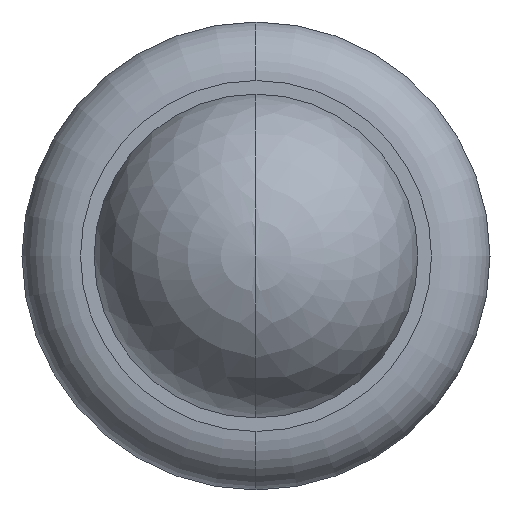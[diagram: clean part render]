
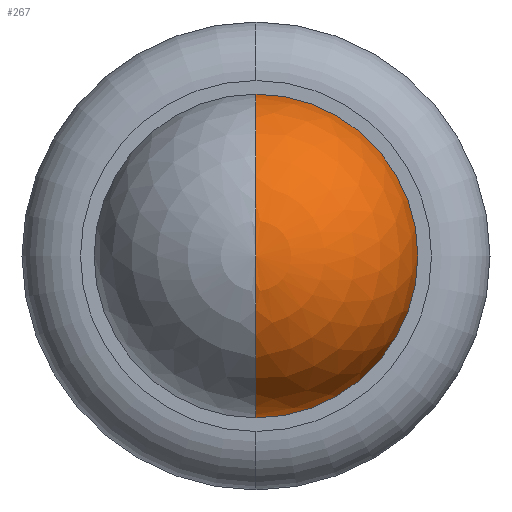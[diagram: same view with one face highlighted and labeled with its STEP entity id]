
A CAD part, left-side view. The second image highlights one B-rep face of the part: STEP entity #267.
In plain terms, the highlighted spherical face has radius 0.415 mm.
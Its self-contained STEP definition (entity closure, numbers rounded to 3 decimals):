
#49=CARTESIAN_POINT('',(0.415,0.,0.));
#50=DIRECTION('',(0.,1.,0.));
#51=DIRECTION('',(-0.036,0.,-0.999));
#52=AXIS2_PLACEMENT_3D('',#49,#50,#51);
#54=CARTESIAN_POINT('',(0.415,0.,0.));
#55=DIRECTION('',(0.,-1.,0.));
#56=DIRECTION('',(-0.036,0.,0.999));
#57=AXIS2_PLACEMENT_3D('',#54,#55,#56);
#59=CARTESIAN_POINT('',(0.4,0.,0.));
#60=DIRECTION('',(-1.,0.,0.));
#61=DIRECTION('',(0.,0.,-1.));
#62=AXIS2_PLACEMENT_3D('',#59,#60,#61);
#150=CARTESIAN_POINT('',(0.4,0.,-0.415));
#152=VERTEX_POINT('',#150);
#153=CARTESIAN_POINT('',(0.,0.,0.));
#154=VERTEX_POINT('',#153);
#170=CARTESIAN_POINT('',(0.4,0.,0.415));
#172=VERTEX_POINT('',#170);
#255=CARTESIAN_POINT('',(0.415,0.,0.));
#256=DIRECTION('',(1.,0.,0.));
#257=DIRECTION('',(0.,0.,1.));
#258=AXIS2_PLACEMENT_3D('',#255,#256,#257);
#259=SPHERICAL_SURFACE('',#258,0.415);
#261=ORIENTED_EDGE('',*,*,#260,.T.);
#263=ORIENTED_EDGE('',*,*,#262,.F.);
#264=ORIENTED_EDGE('',*,*,#248,.F.);
#265=EDGE_LOOP('',(#261,#263,#264));
#266=FACE_OUTER_BOUND('',#265,.F.);
#267=ADVANCED_FACE('',(#266),#259,.T.);
#53=CIRCLE('',#52,0.415);
#58=CIRCLE('',#57,0.415);
#63=CIRCLE('',#62,0.415);
#248=EDGE_CURVE('',#152,#172,#63,.T.);
#260=EDGE_CURVE('',#152,#154,#53,.T.);
#262=EDGE_CURVE('',#172,#154,#58,.T.);
